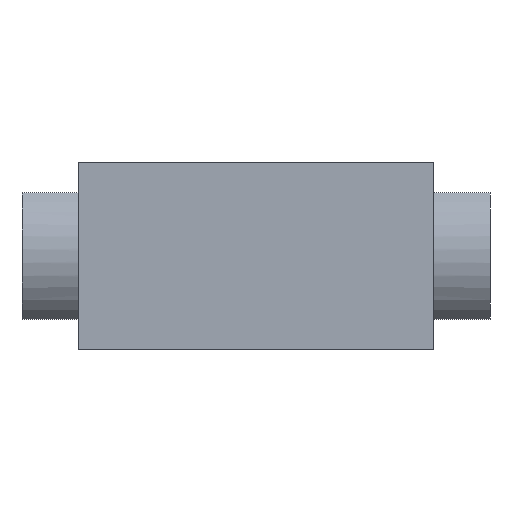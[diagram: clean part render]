
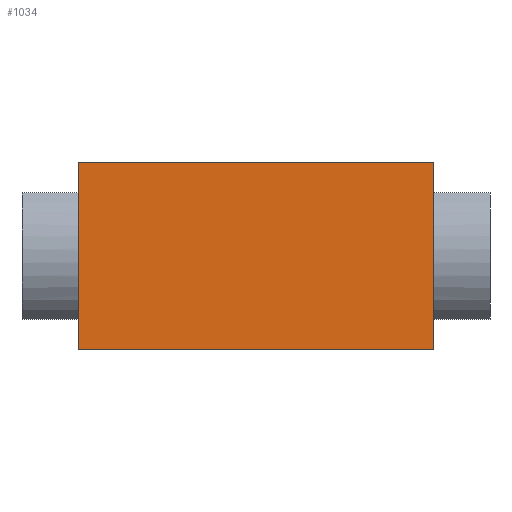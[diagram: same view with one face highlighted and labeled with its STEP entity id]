
A CAD part, front view. The second image highlights one B-rep face of the part: STEP entity #1034.
In plain terms, the highlighted planar face has unit normal (0, -1, 0).
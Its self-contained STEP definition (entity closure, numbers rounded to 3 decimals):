
#22 = ORIENTED_EDGE ( 'NONE', *, *, #1706, .F. ) ;
#36 = VECTOR ( 'NONE', #1067, 1000. ) ;
#41 = EDGE_CURVE ( 'NONE', #2093, #1857, #2017, .T. ) ;
#660 = CARTESIAN_POINT ( 'NONE',  ( -19., -22.5, 10. ) ) ;
#771 = DIRECTION ( 'NONE',  ( 0., 0., -1. ) ) ;
#834 = CARTESIAN_POINT ( 'NONE',  ( -19., -22.5, 10. ) ) ;
#880 = EDGE_CURVE ( 'NONE', #1840, #1503, #1551, .T. ) ;
#884 = CARTESIAN_POINT ( 'NONE',  ( 19., -22.5, -10. ) ) ;
#956 = DIRECTION ( 'NONE',  ( 0., 0., 1. ) ) ;
#1034 = ADVANCED_FACE ( 'NONE', ( #2352 ), #3002, .F. ) ;
#1067 = DIRECTION ( 'NONE',  ( 1., 0., 0. ) ) ;
#1210 = VECTOR ( 'NONE', #1966, 1000. ) ;
#1259 = VECTOR ( 'NONE', #1330, 1000. ) ;
#1330 = DIRECTION ( 'NONE',  ( 0., 0., -1. ) ) ;
#1374 = CARTESIAN_POINT ( 'NONE',  ( -19., -22.5, 10. ) ) ;
#1449 = VECTOR ( 'NONE', #771, 1000. ) ;
#1494 = CARTESIAN_POINT ( 'NONE',  ( -19., -22.5, -10. ) ) ;
#1503 = VERTEX_POINT ( 'NONE', #2901 ) ;
#1551 = LINE ( 'NONE', #834, #1210 ) ;
#1574 = LINE ( 'NONE', #2265, #1259 ) ;
#1706 = EDGE_CURVE ( 'NONE', #1503, #1857, #2864, .T. ) ;
#1757 = ORIENTED_EDGE ( 'NONE', *, *, #2243, .T. ) ;
#1840 = VERTEX_POINT ( 'NONE', #660 ) ;
#1857 = VERTEX_POINT ( 'NONE', #884 ) ;
#1907 = DIRECTION ( 'NONE',  ( 0., 1., 0. ) ) ;
#1966 = DIRECTION ( 'NONE',  ( 1., 0., 0. ) ) ;
#1970 = ORIENTED_EDGE ( 'NONE', *, *, #880, .F. ) ;
#2017 = LINE ( 'NONE', #2906, #36 ) ;
#2079 = EDGE_LOOP ( 'NONE', ( #2588, #22, #1970, #1757 ) ) ;
#2093 = VERTEX_POINT ( 'NONE', #1494 ) ;
#2243 = EDGE_CURVE ( 'NONE', #1840, #2093, #1574, .T. ) ;
#2265 = CARTESIAN_POINT ( 'NONE',  ( -19., -22.5, 10. ) ) ;
#2352 = FACE_OUTER_BOUND ( 'NONE', #2079, .T. ) ;
#2438 = AXIS2_PLACEMENT_3D ( 'NONE', #1374, #1907, #956 ) ;
#2588 = ORIENTED_EDGE ( 'NONE', *, *, #41, .T. ) ;
#2864 = LINE ( 'NONE', #2892, #1449 ) ;
#2892 = CARTESIAN_POINT ( 'NONE',  ( 19., -22.5, 10. ) ) ;
#2901 = CARTESIAN_POINT ( 'NONE',  ( 19., -22.5, 10. ) ) ;
#2906 = CARTESIAN_POINT ( 'NONE',  ( -19., -22.5, -10. ) ) ;
#3002 = PLANE ( 'NONE',  #2438 ) ;
